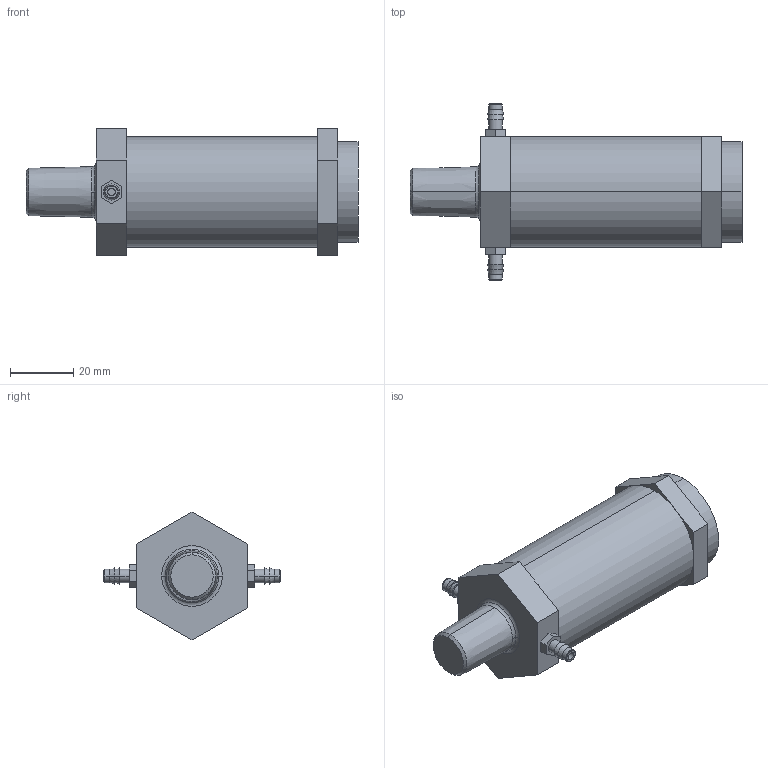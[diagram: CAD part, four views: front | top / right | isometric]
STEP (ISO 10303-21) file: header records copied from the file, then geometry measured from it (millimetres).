
FILE_DESCRIPTION((''),'2;1');
FILE_NAME('XCR3_ASM','2017-08-24T',('jennifer.elliott'),('CenterLine (Windsor) Ltd - Automation Components Division'),'PRO/ENGINEER BY PARAMETRIC TECHNOLOGY CORPORATION, 2015030','PRO/ENGINEER BY PARAMETRIC TECHNOLOGY CORPORATION, 2015030','');
FILE_SCHEMA(('AUTOMOTIVE_DESIGN { 1 0 10303 214 1 1 1 1 }'));
Length unit declared in the file: inch
Products named in the file (7): PRT0986; PRT0987; PRT0988; PRT0989; PRT0990; PRT0991; XCR3_ASM
Assembly tree (6 placements, depth 2):
  XCR3_ASM
    PRT0986
    PRT0987
    PRT0988
    PRT0989
    PRT0990
    PRT0991
Bounding box: 104.78 x 55.55 x 40.33 mm (x, y, z)
Volume: 84099.1 mm3; surface area: 18523.8 mm2
Topology: 6 solids, 6 shells, 83 faces, 177 edges, 113 vertices
Faces by surface type: plane 43, cylinder 16, torus 12, cone 12
Entity records: 2702 total; most frequent: DIRECTION 446, CARTESIAN_POINT 405, ORIENTED_EDGE 354, EDGE_CURVE 177, AXIS2_PLACEMENT_3D 173, VERTEX_POINT 113, VECTOR 100, LINE 100
